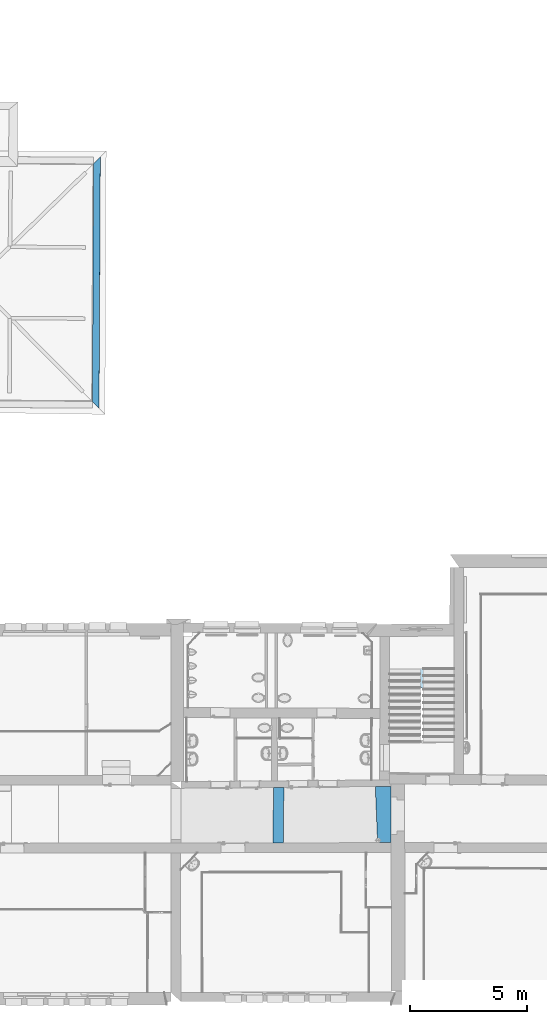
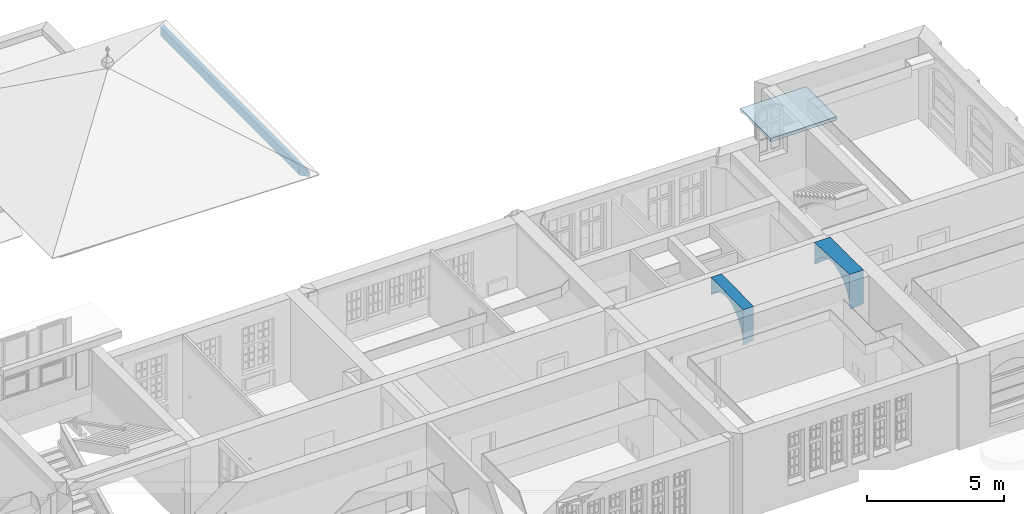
# One storey, part 58 of 158: 3 slabs, 1 beam.
"""IFC2X3 building model written with IfcOpenShell, lengths in metres."""

import ifcopenshell
import ifcopenshell.guid

model = None  # the IFC model being written
_history = None  # IfcOwnerHistory: only IFC2X3 demands one
_inside = {}  # id of a spatial element -> (the spatial element, [elements in it])
_under = {}  # id of a project, library or spatial element -> (it, [spatial elements below it])
_declared = {}  # id of a project -> (the project, [libraries it declares])
_typed = {}  # id of a type object -> (the type object, [elements of that type])
_made_of = {}  # id of a material, layer set ... -> (it, [elements and type objects made of it])


def new_model(schema):
    """Start an empty IFC model of exactly this schema.

    Asked for "IFC4X3", IfcOpenShell would pick the latest addendum, in which some entities
    have other attributes; the version numbers below select the first issue.
    IFC2X3 requires an IfcOwnerHistory on every rooted entity: one is made here for all.
    """
    global model, _history
    if schema == "IFC4X3":
        model = ifcopenshell.file(schema_version=(4, 3, 0, 0))
    else:
        model = ifcopenshell.file(schema=schema)
    _inside.clear()
    _under.clear()
    _declared.clear()
    _typed.clear()
    _made_of.clear()
    _history = None
    if model.schema == "IFC2X3":
        org = make("IfcOrganization", Name="unknown")
        user = make(
            "IfcPersonAndOrganization",
            ThePerson=make("IfcPerson", FamilyName="unknown"),
            TheOrganization=org,
        )
        app = make(
            "IfcApplication",
            ApplicationDeveloper=org,
            Version="unknown",
            ApplicationFullName="unknown",
            ApplicationIdentifier="unknown",
        )
        _history = make(
            "IfcOwnerHistory",
            OwningUser=user,
            OwningApplication=app,
            ChangeAction="ADDED",
            CreationDate=0,
        )
    return model


def make(cls, **values):
    """One entity of the class cls with the attributes given. An attribute that is None is left unset."""
    return model.create_entity(
        cls, **{name: value for name, value in values.items() if value is not None}
    )


def entity(cls, *values):
    """Any entity or typed value of the class cls, its attributes in the order of the schema. None: left unset."""
    e = model.create_entity(cls)
    for i, value in enumerate(values):
        if value is not None:
            e[i] = value
    return e


def rooted(cls, **values):
    """An entity with a GlobalId (a new one), such as an element, a storey or a relation."""
    return make(cls, GlobalId=ifcopenshell.guid.new(), OwnerHistory=_history, **values)


def si_unit(unit_type, name, prefix=None):
    """IfcSIUnit, for example si_unit("LENGTHUNIT", "METRE", prefix="MILLI")."""
    return make("IfcSIUnit", UnitType=unit_type, Prefix=prefix, Name=name)


def converted_unit(unit_type, name, factor, base, dimensions=None, offset=None):
    """IfcConversionBasedUnit, such as the inch: factor (a typed value) times the base unit."""
    return make(
        "IfcConversionBasedUnit"
        if offset is None
        else "IfcConversionBasedUnitWithOffset",
        ConversionOffset=offset,
        Dimensions=None
        if dimensions is None
        else entity("IfcDimensionalExponents", *dimensions),
        UnitType=unit_type,
        Name=name,
        ConversionFactor=make(
            "IfcMeasureWithUnit", ValueComponent=factor, UnitComponent=base
        ),
    )


def derived_unit(unit_type, elements):
    """IfcDerivedUnit: a product of units, each with its exponent."""
    return make(
        "IfcDerivedUnit",
        Elements=[
            make("IfcDerivedUnitElement", Unit=unit, Exponent=power)
            for unit, power in elements
        ],
        UnitType=unit_type,
    )


def money_unit(currency):
    """IfcMonetaryUnit."""
    return make("IfcMonetaryUnit", Currency=currency)


def assignment(units):
    """IfcUnitAssignment: the units of a project."""
    return None if units is None else make("IfcUnitAssignment", Units=units)


def point(xyz):
    """IfcCartesianPoint."""
    return None if xyz is None else make("IfcCartesianPoint", Coordinates=xyz)


def direction(xyz):
    """IfcDirection."""
    return None if xyz is None else make("IfcDirection", DirectionRatios=xyz)


def frame(location, z_axis=None, x_axis=None):
    """IfcAxis2Placement3D, a coordinate frame: its origin and axes. An axis left out is left unset."""
    return make(
        "IfcAxis2Placement3D",
        Location=point(location),
        Axis=direction(z_axis),
        RefDirection=direction(x_axis),
    )


def origin_with_axes():
    """The frame at (0, 0, 0) with the z axis (0, 0, 1) and the x axis (1, 0, 0) written out."""
    return frame((0.0, 0.0, 0.0), z_axis=(0.0, 0.0, 1.0), x_axis=(1.0, 0.0, 0.0))


def place(relative_to, where):
    """IfcLocalPlacement: puts the frame where relative to a parent placement (None: the world)."""
    return make(
        "IfcLocalPlacement", PlacementRelTo=relative_to, RelativePlacement=where
    )


def context(
    kind, dimensions, precision=None, world=None, true_north=None, identifier=None
):
    """IfcGeometricRepresentationContext, for example the 3D "Model" context."""
    return make(
        "IfcGeometricRepresentationContext",
        ContextIdentifier=identifier,
        ContextType=kind,
        CoordinateSpaceDimension=dimensions,
        Precision=precision,
        WorldCoordinateSystem=world,
        TrueNorth=true_north,
    )


def subcontext(parent, identifier, kind, view, scale=None):
    """IfcGeometricRepresentationSubContext, for example "Body" below "Model"."""
    return make(
        "IfcGeometricRepresentationSubContext",
        ContextIdentifier=identifier,
        ContextType=kind,
        ParentContext=parent,
        TargetScale=scale,
        TargetView=view,
    )


def project(units=None, contexts=None):
    """IfcProject with its units and contexts."""
    return rooted(
        "IfcProject",
        Name="project",
        RepresentationContexts=contexts,
        UnitsInContext=assignment(units),
    )


def spatial(cls, under=None, at=None, **own):
    """A site, building, storey or space (cls), placed at a placement, below another one or the project."""
    s = rooted(cls, ObjectPlacement=at, **own)
    if under is not None:
        _under.setdefault(under.id(), (under, []))[1].append(s)
    return s


def polyline(points):
    """IfcPolyline through the points."""
    return make("IfcPolyline", Points=[point(p) for p in points])


def outline(outer, holes=None, kind="AREA"):
    """IfcArbitraryClosedProfileDef: a profile drawn as a closed curve; with holes, ...WithVoids."""
    if holes is None:
        return make("IfcArbitraryClosedProfileDef", ProfileType=kind, OuterCurve=outer)
    return make(
        "IfcArbitraryProfileDefWithVoids",
        ProfileType=kind,
        OuterCurve=outer,
        InnerCurves=holes,
    )


def extrude(swept, where, along, depth):
    """IfcExtrudedAreaSolid: the profile swept, set in the frame where, extruded along a direction by depth."""
    return make(
        "IfcExtrudedAreaSolid",
        SweptArea=swept,
        Position=where,
        ExtrudedDirection=direction(along),
        Depth=depth,
    )


def boolean(op, a, b):
    """IfcBooleanResult of two solids."""
    return make("IfcBooleanResult", Operator=op, FirstOperand=a, SecondOperand=b)


def faces_of(points, faces, orient=None, outer=None):
    """IfcFace entities. A face is a list of loops; a loop is a list of indices into points, from 0.

    orient and outer hold one flag for each loop. By default every Orientation is true, the
    first loop of a face is its IfcFaceOuterBound and the others are IfcFaceBound.
    """
    made = []
    for i, loops in enumerate(faces):
        bounds = []
        for j, loop in enumerate(loops):
            is_outer = j == 0 if outer is None else outer[i][j]
            bounds.append(
                make(
                    "IfcFaceOuterBound" if is_outer else "IfcFaceBound",
                    Bound=make("IfcPolyLoop", Polygon=[points[k] for k in loop]),
                    Orientation=True if orient is None else orient[i][j],
                )
            )
        made.append(make("IfcFace", Bounds=bounds))
    return made


def faceted_brep(points, faces, orient=None, outer=None, voids=None):
    """IfcFacetedBrep: a solid bounded by flat faces; with voids (closed shells), ...WithVoids."""
    shared = [point(p) for p in points]
    hull = make("IfcClosedShell", CfsFaces=faces_of(shared, faces, orient, outer))
    if voids is None:
        return make("IfcFacetedBrep", Outer=hull)
    return make(
        "IfcFacetedBrepWithVoids",
        Outer=hull,
        Voids=[
            make(cls, CfsFaces=faces_of(shared, fs, o, b)) for cls, fs, o, b in voids
        ],
    )


def shape(context_of_items, identifier, shape_type, items):
    """IfcShapeRepresentation: the items that make up one representation, for example the "Body"."""
    return make(
        "IfcShapeRepresentation",
        ContextOfItems=context_of_items,
        RepresentationIdentifier=identifier,
        RepresentationType=shape_type,
        Items=items,
    )


def material(Name=None, Category=None):
    """IfcMaterial."""
    return make("IfcMaterial", Name=Name, Category=Category)


def layer(
    of_material, thickness, ventilated=None, Name=None, Category=None, Priority=None
):
    """IfcMaterialLayer: one layer of a wall or slab, of a material (None: an air gap)."""
    return make(
        "IfcMaterialLayer",
        Material=of_material,
        LayerThickness=thickness,
        IsVentilated=ventilated,
        Name=Name,
        Category=Category,
        Priority=Priority,
    )


def layer_set(layers, Name=None):
    """IfcMaterialLayerSet."""
    return make("IfcMaterialLayerSet", MaterialLayers=layers, LayerSetName=Name)


def layer_usage(for_layer_set, set_direction, sense, offset, extent=None):
    """IfcMaterialLayerSetUsage: how a layer set lies in its element."""
    return make(
        "IfcMaterialLayerSetUsage",
        ForLayerSet=for_layer_set,
        LayerSetDirection=set_direction,
        DirectionSense=sense,
        OffsetFromReferenceLine=offset,
        ReferenceExtent=extent,
    )


def made_of(thing, what):
    """Note that an element or type object is made of a material, layer set ...; save() writes the relation."""
    if what is not None:
        _made_of.setdefault(what.id(), (what, []))[1].append(thing)
    return thing


def type_object(cls, material=None, **own):
    """A type object (cls), such as IfcWallType, which elements share."""
    return made_of(rooted(cls, **own), material)


def element(
    cls,
    number,
    at=None,
    inside=None,
    cuts=None,
    type_object=None,
    material=None,
    context=None,
    identifier="Body",
    shape_type=None,
    held_by="IfcProductDefinitionShape",
    body=None,
    shapes=None,
    **own,
):
    """One element of the class cls, such as IfcWall. Its Tag is "e" and its number.

    at: its placement. inside: the storey or other place that contains it. cuts: it is an
    opening in that element (IfcRelVoidsElement). A single representation is given by context,
    identifier, shape_type and body (its items); several are given by shapes. held_by: the class
    of the entity that holds the representations. save() writes the other relations.
    """
    e = rooted(cls, Tag="e%d" % number, ObjectPlacement=at, **own)
    if body is not None:
        shapes = [shape(context, identifier, shape_type, body)]
    if shapes is not None:
        e.Representation = make(held_by, Representations=shapes)
    if inside is not None:
        _inside.setdefault(inside.id(), (inside, []))[1].append(e)
    if cuts is not None:
        rooted(
            "IfcRelVoidsElement", RelatingBuildingElement=cuts, RelatedOpeningElement=e
        )
    if type_object is not None:
        _typed.setdefault(type_object.id(), (type_object, []))[1].append(e)
    return made_of(e, material)


def aggregate(whole, parts):
    """IfcRelAggregates: a whole, such as a stair, and the parts it consists of."""
    return rooted("IfcRelAggregates", RelatingObject=whole, RelatedObjects=parts)


def save(model, path):
    """Write the relations noted so far, then the file.

    IfcRelAggregates (storeys below a building ...), IfcRelContainedInSpatialStructure (elements
    in a storey), IfcRelDefinesByType, IfcRelAssociatesMaterial and IfcRelDeclares: one each for
    every whole, place, type object, material and project.
    """
    for whole, parts in _under.values():
        aggregate(whole, parts)
    for where, things in _inside.values():
        rooted(
            "IfcRelContainedInSpatialStructure",
            RelatedElements=things,
            RelatingStructure=where,
        )
    for kind, things in _typed.values():
        rooted("IfcRelDefinesByType", RelatedObjects=things, RelatingType=kind)
    for what, things in _made_of.values():
        rooted("IfcRelAssociatesMaterial", RelatedObjects=things, RelatingMaterial=what)
    for by, libraries in _declared.values():
        rooted("IfcRelDeclares", RelatingContext=by, RelatedDefinitions=libraries)
    model.write(path)


model = new_model("IFC2X3")

# Units and contexts
model_context = context("Model", 3, precision=1e-05, world=origin_with_axes(), true_north=direction((0.0, 1.0)))
body_context = subcontext(model_context, "Body", "Model", "MODEL_VIEW")
ifc_project = project(units=[si_unit("LENGTHUNIT", "METRE"), si_unit("AREAUNIT", "SQUARE_METRE"), si_unit("VOLUMEUNIT", "CUBIC_METRE"), converted_unit("PLANEANGLEUNIT", "DEGREE", entity("IfcPlaneAngleMeasure", 0.0174532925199), si_unit("PLANEANGLEUNIT", "RADIAN"), dimensions=[0, 0, 0, 0, 0, 0, 0]), money_unit("EUR"), converted_unit("TIMEUNIT", "Year", entity("IfcTimeMeasure", 31556926.0), si_unit("TIMEUNIT", "SECOND"), dimensions=[0, 0, 1, 0, 0, 0, 0]), si_unit("MASSUNIT", "GRAM", prefix="KILO"), si_unit("THERMODYNAMICTEMPERATUREUNIT", "DEGREE_CELSIUS"), si_unit("LUMINOUSINTENSITYUNIT", "LUMEN"), si_unit("ENERGYUNIT", "JOULE", prefix="MEGA"), derived_unit("THERMALCONDUCTANCEUNIT", [(si_unit("POWERUNIT", "WATT"), 1), (si_unit("LENGTHUNIT", "METRE"), -1), (si_unit("THERMODYNAMICTEMPERATUREUNIT", "KELVIN"), -1)]), derived_unit("SPECIFICHEATCAPACITYUNIT", [(si_unit("ENERGYUNIT", "JOULE"), 1), (si_unit("MASSUNIT", "GRAM", prefix="KILO"), -1), (si_unit("THERMODYNAMICTEMPERATUREUNIT", "KELVIN"), -1)]), derived_unit("MASSDENSITYUNIT", [(si_unit("MASSUNIT", "GRAM", prefix="KILO"), 1), (si_unit("VOLUMEUNIT", "CUBIC_METRE"), -1)])], contexts=[model_context])

# Site, building, storey
site_placement = place(None, origin_with_axes())
site = spatial("IfcSite", under=ifc_project, at=site_placement, Name="Gelände", CompositionType="ELEMENT")
building_placement = place(site_placement, origin_with_axes())
building = spatial("IfcBuilding", under=site, at=building_placement, Name="Gebäude", CompositionType="ELEMENT")
storey_placement = place(building_placement, origin_with_axes())
storey = spatial("IfcBuildingStorey", under=building, at=storey_placement, Name="ERDGESCHOSS", CompositionType="ELEMENT", Elevation=0.0)

# Beam
ifc_material = material(Name="05_ALLGEMEIN - TRAGENDE BAUTEILE")
beam_type = type_object("IfcBeamType", Name="sims kantine 289 x 434", PredefinedType="LINTEL")
beam_placement = place(storey_placement, frame((9.18128480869, 35.7120027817, 0.825955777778), z_axis=(0.0, 0.0, 1.0), x_axis=(0.999987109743, -0.00507743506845, 0.0)))
element("IfcBeam", 1, at=beam_placement, inside=storey, type_object=beam_type, material=ifc_material, Name="Unterzug-006", ObjectType="LINTEL", context=body_context, shape_type="CSG", body=[
    boolean("DIFFERENCE", extrude(outline(polyline([(0.0, 0.434190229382), (0.0, 0.0), (0.26806092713, 0.0), (0.271404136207, 0.111285), (0.288909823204, 0.116581), (0.288149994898, 0.268944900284), (0.0, 0.434190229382)])), frame((0.0, 10.4622852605, 0.0), z_axis=(0.0, -1.0, 0.0), x_axis=(1.0, 0.0, 0.0)), (0.0, 0.0, 1.0), 10.7518114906), faceted_brep([(0.288313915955, -0.288909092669, 0.236074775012), (0.288306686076, 10.461662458, 0.237524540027), (0.288909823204, 10.4622652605, 0.116581), (0.288909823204, 10.4622852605, 0.116581), (0.288149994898, 10.4622852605, 0.268944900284), (0.288149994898, -0.289526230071, 0.268944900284), (0.288909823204, -0.289526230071, 0.116581), (0.288909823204, -0.289506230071, 0.116581), (0.0, 0.0, 0.402107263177), (0.0, 10.1735157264, 0.403475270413), (0.271404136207, 10.4447692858, 0.111285), (0.0, 10.1735157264, 0.0), (0.26806092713, 10.4414279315, 0.0), (0.271404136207, 10.4622852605, 0.111285), (0.0, 10.4622852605, 0.0), (0.0, 10.4622852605, 0.434190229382), (0.26806092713, 10.4622852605, 0.0), (0.0, -0.289526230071, 0.434190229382), (0.0, -0.289526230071, 0.0), (0.26806092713, -0.289526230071, 0.0), (0.271404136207, -0.289526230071, 0.111285), (0.271404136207, -0.271964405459, 0.111285), (0.26806092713, -0.268614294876, 0.0), (0.0, 0.0, 0.0)], [[[0, 1, 2, 3, 4, 5, 6, 7]], [[1, 0, 8, 9]], [[10, 2, 1, 9, 11, 12]], [[2, 10, 13, 3]], [[14, 15, 4, 3, 13, 16]], [[5, 4, 15, 17]], [[5, 17, 18, 19, 20, 6]], [[21, 7, 6, 20]], [[0, 7, 21, 22, 23, 8]], [[8, 23, 18, 17, 15, 14, 11, 9]], [[12, 11, 14, 16]], [[10, 12, 16, 13]], [[23, 22, 19, 18]], [[22, 21, 20, 19]]])),
])

# Slabs
ifc_layer_1 = layer(ifc_material, 1.56764471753, ventilated="UNKNOWN")
ifc_layer_set_1 = layer_set([ifc_layer_1], Name="05_ALLGEMEIN - TRAGENDE BAUTEILE 1.56764")
ifc_layer_usage_1 = layer_usage(ifc_layer_set_1, "AXIS3", "NEGATIVE", 1.56764471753)
slab_type_1 = type_object("IfcSlabType", Name="05_ALLGEMEIN - TRAGENDE BAUTEILE 1568", PredefinedType="NOTDEFINED")
slab_1_placement = place(storey_placement, frame((21.9714720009, 16.8199423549, 2.03235528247), z_axis=(0.0, 0.0, 1.0), x_axis=(1.0, 0.0, 0.0)))
element("IfcSlab", 2, at=slab_1_placement, inside=storey, type_object=slab_type_1, material=ifc_layer_usage_1, Name="Belag-004", PredefinedType="NOTDEFINED", context=body_context, shape_type="CSG", body=[
    boolean("DIFFERENCE", extrude(outline(polyline([(0.0, 0.0), (-0.00758796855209, 2.41036421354), (-0.674637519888, 2.40429474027), (-0.577830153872, -0.000934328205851), (0.0, 0.0)])), origin_with_axes(), (0.0, 0.0, 1.0), 1.56764471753), faceted_brep([(-4.47276267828e-05, 0.0142080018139, 0.224465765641), (-3.79978662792e-05, 0.0120702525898, 0.0967812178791), (0.0, 0.0, 0.0667417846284), (0.0, 0.0, 0.0), (-0.00758796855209, 2.41036421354, 0.0), (-0.00758796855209, 2.41036421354, 0.625967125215), (-0.00742701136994, 2.35923518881, 0.737664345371), (-0.00713641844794, 2.26692658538, 0.883710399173), (-0.0067868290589, 2.15587739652, 1.01608678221), (-0.00638453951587, 2.02808768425, 1.13240922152), (-0.00593680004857, 1.88586052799, 1.2305812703), (-0.0054516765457, 1.73175810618, 1.30883444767), (-0.00493790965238, 1.56855693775, 1.3657588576), (-0.00440475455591, 1.39919698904, 1.40032904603), (-0.00386181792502, 1.22672987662, 1.41192205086), (-0.00317583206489, 1.00882230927, 1.35940686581), (-0.0025241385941, 0.801807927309, 1.27349817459), (-0.0019227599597, 0.61077635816, 1.1563080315), (-0.0013864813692, 0.440424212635, 1.01071770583), (-0.00092848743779, 0.29493966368, 0.840306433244), (-0.000560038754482, 0.177899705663, 0.649264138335), (-0.000290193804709, 0.0921818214, 0.442287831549), (-0.000107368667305, 0.0341063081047, 0.307420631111), (-0.577980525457, 0.00280173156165, 0.224465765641), (-0.577830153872, -0.000934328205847, 0.00115314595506), (-0.577830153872, -0.000934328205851, 0.0), (-0.674637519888, 2.40429474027, 0.0), (-0.674637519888, 2.40429474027, 0.580580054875), (-0.671747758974, 2.33249713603, 0.737664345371), (-0.668037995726, 2.2403261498, 0.883710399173), (-0.663575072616, 2.12944251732, 1.01608678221), (-0.658439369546, 2.00184331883, 1.13240922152), (-0.652723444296, 1.85982820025, 1.2305812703), (-0.6465302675, 1.70595552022, 1.30883444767), (-0.639971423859, 1.54299765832, 1.3657588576), (-0.633165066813, 1.37389019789, 1.40032904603), (-0.62623383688, 1.20168020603, 1.41192205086), (-0.617476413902, 0.984097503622, 1.35940686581), (-0.60915677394, 0.777391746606, 1.27349817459), (-0.60147946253, 0.58664497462, 1.1563080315), (-0.594633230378, 0.416546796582, 1.01071770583), (-0.588786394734, 0.271279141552, 0.840306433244), (-0.584082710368, 0.154413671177, 0.649264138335), (-0.58063781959, 0.068823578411, 0.442287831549), (-0.579381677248, 0.0376140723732, 0.369702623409)], [[[0, 1, 2, 3, 4, 5, 6, 7, 8, 9, 10, 11, 12, 13, 14, 15, 16, 17, 18, 19, 20, 21, 22]], [[1, 0, 23, 24]], [[24, 2, 1]], [[2, 24, 25, 3]], [[4, 3, 25, 26]], [[27, 5, 4, 26]], [[6, 5, 27, 28]], [[7, 6, 28, 29]], [[8, 7, 29, 30]], [[9, 8, 30, 31]], [[10, 9, 31, 32]], [[11, 10, 32, 33]], [[12, 11, 33, 34]], [[13, 12, 34, 35]], [[14, 13, 35, 36]], [[15, 14, 36, 37]], [[16, 15, 37, 38]], [[17, 16, 38, 39]], [[18, 17, 39, 40]], [[19, 18, 40, 41]], [[20, 19, 41, 42]], [[21, 20, 42, 43]], [[22, 21, 43, 44]], [[0, 22, 44, 23]], [[28, 27, 26, 25, 24, 23, 44, 43, 42, 41, 40, 39, 38, 37, 36, 35, 34, 33, 32, 31, 30, 29]]])),
])
ifc_layer_usage_2 = layer_usage(ifc_layer_set_1, "AXIS3", "NEGATIVE", 1.56764471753)
slab_2_placement = place(storey_placement, frame((16.9381884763, 19.1845778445, 2.03235528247), z_axis=(0.0, 0.0, 1.0), x_axis=(1.0, 0.0, 0.0)))
element("IfcSlab", 3, at=slab_2_placement, inside=storey, type_object=slab_type_1, material=ifc_layer_usage_2, Name="Belag-004", PredefinedType="NOTDEFINED", context=body_context, shape_type="CSG", body=[
    boolean("DIFFERENCE", extrude(outline(polyline([(0.0, 0.0), (-0.0285327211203, -2.3728202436), (0.416464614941, -2.37210070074), (0.445037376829, 0.00404938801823), (0.0, 0.0)])), origin_with_axes(), (0.0, 0.0, 1.0), 1.56764471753), faceted_brep([(0.0, 0.0, 0.783536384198), (0.445037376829, 0.00404938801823, 0.783536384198), (0.445037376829, 0.00404938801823, 0.0), (0.0, 0.0, 0.0), (-0.00115657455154, -0.0961823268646, 0.903515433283), (0.416599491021, -2.3608842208, 0.213577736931), (0.416464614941, -2.37210070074, 0.0703328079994), (0.416464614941, -2.37210070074, 0.0), (0.443767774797, -0.101532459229, 0.903515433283), (0.442465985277, -0.209791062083, 1.01272042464), (0.441033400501, -0.328926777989, 1.10994171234), (0.439485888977, -0.457619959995, 1.19410239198), (0.437840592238, -0.594445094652, 1.26427022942), (0.436115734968, -0.737886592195, 1.31966798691), (0.434330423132, -0.886355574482, 1.35968203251), (0.432504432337, -1.03820747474, 1.38386913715), (0.430657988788, -1.19176025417, 1.3919613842), (0.428073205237, -1.40671440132, 1.33883868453), (0.425619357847, -1.61077971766, 1.25290084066), (0.423356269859, -1.79898122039, 1.13624296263), (0.421339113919, -1.96673067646, 0.991709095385), (0.419617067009, -2.10993846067, 0.822822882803), (0.418232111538, -2.22511325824, 0.63370166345), (0.41721801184, -2.30944718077, 0.42895609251), (0.0127009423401, -2.37275357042, 0.0), (-0.0285259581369, -2.37225782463, 0.0), (-0.0283248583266, -2.35553408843, 0.213577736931), (-0.0277063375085, -2.30409704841, 0.42895609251), (-0.0266922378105, -2.21976312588, 0.63370166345), (-0.025307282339, -2.10458832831, 0.822822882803), (-0.0235852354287, -1.96138054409, 0.991709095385), (-0.0215680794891, -1.79363108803, 1.13624296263), (-0.0193049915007, -1.60542958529, 1.25290084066), (-0.0168511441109, -1.40136426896, 1.33883868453), (-0.0142663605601, -1.1864101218, 1.3919613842), (-0.0124199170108, -1.03285734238, 1.38386913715), (-0.0105939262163, -0.881005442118, 1.35968203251), (-0.00880861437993, -0.732536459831, 1.31966798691), (-0.0070837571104, -0.589094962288, 1.26427022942), (-0.00543846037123, -0.452269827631, 1.19410239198), (-0.00389094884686, -0.323576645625, 1.10994171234), (-0.00245836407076, -0.204440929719, 1.01272042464)], [[[0, 1, 2, 3]], [[1, 0, 4]], [[5, 6, 7, 2, 1, 8, 9, 10, 11, 12, 13, 14, 15, 16, 17, 18, 19, 20, 21, 22, 23]], [[24, 25, 3, 2, 7]], [[4, 0, 3, 25, 26, 27, 28, 29, 30, 31, 32, 33, 34, 35, 36, 37, 38, 39, 40, 41]], [[8, 1, 4]], [[6, 5, 26, 25, 24]], [[6, 24, 7]], [[9, 8, 4, 41]], [[10, 9, 41, 40]], [[11, 10, 40, 39]], [[12, 11, 39, 38]], [[13, 12, 38, 37]], [[14, 13, 37, 36]], [[15, 14, 36, 35]], [[16, 15, 35, 34]], [[17, 16, 34, 33]], [[18, 17, 33, 32]], [[19, 18, 32, 31]], [[20, 19, 31, 30]], [[21, 20, 30, 29]], [[22, 21, 29, 28]], [[23, 22, 28, 27]], [[5, 23, 27, 26]]])),
])
ifc_layer_2 = layer(ifc_material, 0.153351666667, ventilated="UNKNOWN")
ifc_layer_set_2 = layer_set([ifc_layer_2], Name="05_ALLGEMEIN - TRAGENDE BAUTEILE 0.153352")
ifc_layer_usage_3 = layer_usage(ifc_layer_set_2, "AXIS3", "NEGATIVE", 0.153351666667)
slab_type_2 = type_object("IfcSlabType", Name="05_ALLGEMEIN - TRAGENDE BAUTEILE 153", PredefinedType="NOTDEFINED")
slab_3_placement = place(storey_placement, frame((21.9019023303, 25.651561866, 5.28664833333), z_axis=(0.0, 0.0, 1.0), x_axis=(1.0, 0.0, 0.0)))
element("IfcSlab", 4, at=slab_3_placement, inside=storey, type_object=slab_type_2, material=ifc_layer_usage_3, Name="Belag-004", PredefinedType="NOTDEFINED", context=body_context, shape_type="CSG", body=[
    boolean("DIFFERENCE", boolean("DIFFERENCE", extrude(outline(polyline([(0.0, 0.0), (-0.0028839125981, -2.2117572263), (2.77050627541, -2.20609064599), (2.77083414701, 0.0150573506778), (0.0, 0.0)])), origin_with_axes(), (0.0, 0.0, 1.0), 0.153351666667), faceted_brep([(2.77056387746, -1.81586873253, 0.0), (-0.00236717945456, -1.81545941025, 0.0), (-0.00126431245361, -0.969638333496, 0.0), (2.77068873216, -0.970047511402, 0.0), (2.77057913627, -1.71249881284, 0.0295143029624), (-0.00223239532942, -1.71208950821, 0.0295143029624), (-0.00139909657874, -1.07300823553, 0.0295143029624), (-0.00209498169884, -1.60670296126, 0.0507300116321), (-0.00195580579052, -1.49996487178, 0.0635132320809), (-0.00181574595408, -1.39254887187, 0.0677832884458), (-0.00167568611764, -1.28513287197, 0.0635132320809), (-0.00153651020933, -1.17839478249, 0.0507300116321), (2.77067347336, -1.07341743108, 0.0295143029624), (2.77065791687, -1.17880399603, 0.0507300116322), (2.77064216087, -1.28554210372, 0.0635132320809), (2.77062630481, -1.39295812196, 0.0677832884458), (2.77061044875, -1.5003741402, 0.0635132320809), (2.77059469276, -1.6071122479, 0.0507300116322)], [[[0, 1, 2, 3]], [[0, 4, 5, 1]], [[6, 2, 1, 5, 7, 8, 9, 10, 11]], [[12, 3, 2, 6]], [[4, 0, 3, 12, 13, 14, 15, 16, 17]], [[4, 17, 7, 5]], [[17, 16, 8, 7]], [[16, 15, 9, 8]], [[15, 14, 10, 9]], [[14, 13, 11, 10]], [[13, 12, 6, 11]]])), faceted_brep([(2.77069942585, -0.897603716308, 0.0), (-0.00116985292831, -0.897194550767, 0.0), (-5.25058415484e-05, -0.0402682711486, 0.0), (2.77082591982, -0.040677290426, 0.0), (2.77071481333, -0.793362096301, 0.0327948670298), (-0.00103393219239, -0.792952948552, 0.0327948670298), (-0.00018842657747, -0.144509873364, 0.0327948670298), (-0.000894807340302, -0.686254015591, 0.0563989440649), (-0.0007535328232, -0.577906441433, 0.0706333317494), (-0.000611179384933, -0.468731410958, 0.0753901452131), (-0.000468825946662, -0.359556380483, 0.0706333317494), (-0.00032755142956, -0.251208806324, 0.0563989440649), (2.77081053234, -0.144918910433, 0.0327948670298), (2.77079478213, -0.251617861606, 0.0563989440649), (2.77077878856, -0.359965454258, 0.0706333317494), (2.77076267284, -0.469140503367, 0.0753901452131), (2.77074655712, -0.578315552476, 0.0706333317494), (2.77073056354, -0.686663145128, 0.0563989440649)], [[[0, 1, 2, 3]], [[0, 4, 5, 1]], [[6, 2, 1, 5, 7, 8, 9, 10, 11]], [[12, 3, 2, 6]], [[4, 0, 3, 12, 13, 14, 15, 16, 17]], [[4, 17, 7, 5]], [[17, 16, 8, 7]], [[16, 15, 9, 8]], [[15, 14, 10, 9]], [[14, 13, 11, 10]], [[13, 12, 6, 11]]])),
])

save(model, "model.ifc")
